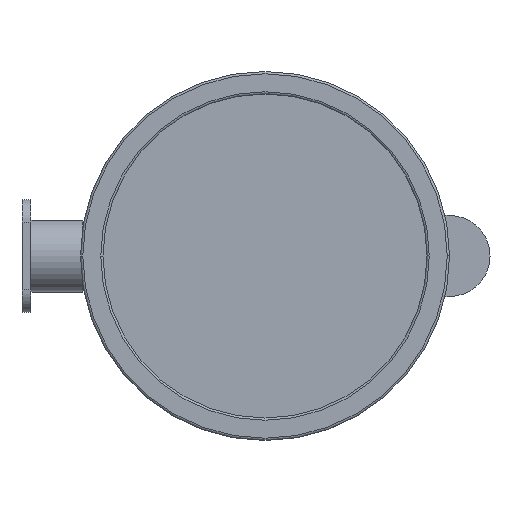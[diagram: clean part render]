
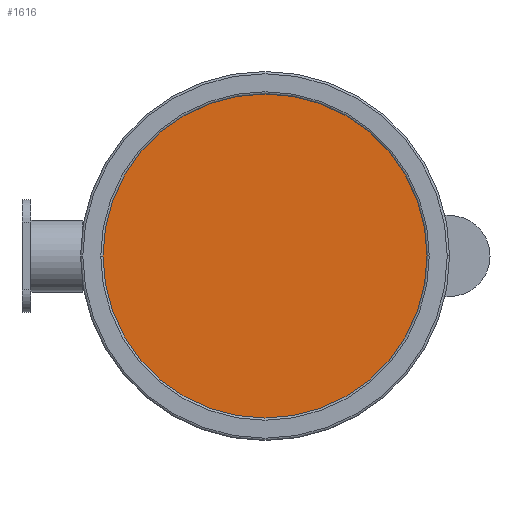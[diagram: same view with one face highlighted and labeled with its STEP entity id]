
A CAD part, front view. The second image highlights one B-rep face of the part: STEP entity #1616.
In plain terms, the highlighted planar face has unit normal (0, -1, 0).
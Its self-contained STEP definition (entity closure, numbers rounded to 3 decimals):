
#1035=CARTESIAN_POINT('',(0.,2.,0.));
#1036=DIRECTION('',(0.,1.,0.));
#1037=DIRECTION('',(-1.,0.,0.));
#1038=AXIS2_PLACEMENT_3D('',#1035,#1036,#1037);
#1040=CARTESIAN_POINT('',(0.,2.,0.));
#1041=DIRECTION('',(0.,1.,0.));
#1042=DIRECTION('',(1.,0.,0.));
#1043=AXIS2_PLACEMENT_3D('',#1040,#1041,#1042);
#1129=CARTESIAN_POINT('',(-36.,2.,0.));
#1130=CARTESIAN_POINT('',(36.,2.,0.));
#1131=VERTEX_POINT('',#1129);
#1132=VERTEX_POINT('',#1130);
#1607=CARTESIAN_POINT('',(0.,2.,0.));
#1608=DIRECTION('',(0.,1.,0.));
#1609=DIRECTION('',(-1.,0.,0.));
#1610=AXIS2_PLACEMENT_3D('',#1607,#1608,#1609);
#1611=PLANE('',#1610);
#1612=ORIENTED_EDGE('',*,*,#1587,.T.);
#1613=ORIENTED_EDGE('',*,*,#1601,.T.);
#1614=EDGE_LOOP('',(#1612,#1613));
#1615=FACE_OUTER_BOUND('',#1614,.F.);
#1616=ADVANCED_FACE('',(#1615),#1611,.F.);
#1039=CIRCLE('',#1038,36.);
#1044=CIRCLE('',#1043,36.);
#1587=EDGE_CURVE('',#1131,#1132,#1039,.T.);
#1601=EDGE_CURVE('',#1132,#1131,#1044,.T.);
